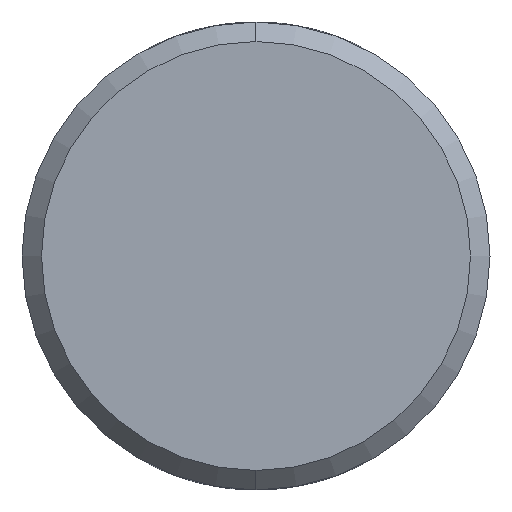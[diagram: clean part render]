
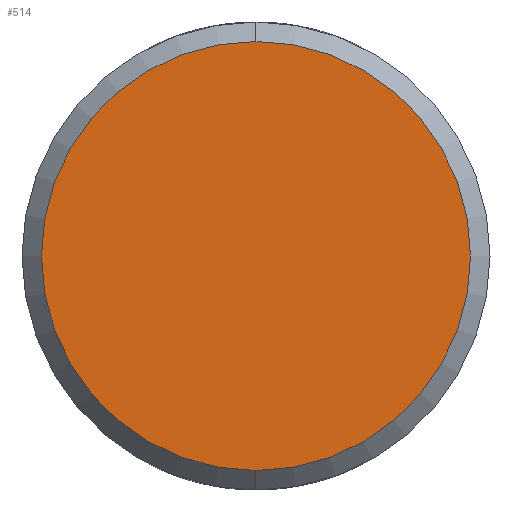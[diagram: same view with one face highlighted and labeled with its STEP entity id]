
A CAD part, left-side view. The second image highlights one B-rep face of the part: STEP entity #514.
In plain terms, the highlighted planar face has unit normal (-1, 0, 0).
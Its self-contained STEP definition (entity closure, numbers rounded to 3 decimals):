
#48 = CIRCLE ( 'NONE', #911, 5.5 ) ;
#71 = DIRECTION ( 'NONE',  ( 1., 0., 0. ) ) ;
#72 = DIRECTION ( 'NONE',  ( 0., 0., -1. ) ) ;
#152 = DIRECTION ( 'NONE',  ( -1., 0., 0. ) ) ;
#162 = VERTEX_POINT ( 'NONE', #488 ) ;
#219 = PLANE ( 'NONE',  #989 ) ;
#224 = CARTESIAN_POINT ( 'NONE',  ( -47., 0., 0. ) ) ;
#230 = DIRECTION ( 'NONE',  ( -1., 0., 0. ) ) ;
#300 = CARTESIAN_POINT ( 'NONE',  ( -47., 0., 0. ) ) ;
#315 = EDGE_LOOP ( 'NONE', ( #851, #742 ) ) ;
#348 = AXIS2_PLACEMENT_3D ( 'NONE', #300, #152, #441 ) ;
#371 = CARTESIAN_POINT ( 'NONE',  ( -47., 0., 5.5 ) ) ;
#441 = DIRECTION ( 'NONE',  ( 0., 0., -1. ) ) ;
#488 = CARTESIAN_POINT ( 'NONE',  ( -47., 0., -5.5 ) ) ;
#514 = ADVANCED_FACE ( 'NONE', ( #924 ), #219, .F. ) ;
#523 = CIRCLE ( 'NONE', #348, 5.5 ) ;
#742 = ORIENTED_EDGE ( 'NONE', *, *, #793, .T. ) ;
#745 = VERTEX_POINT ( 'NONE', #371 ) ;
#747 = CARTESIAN_POINT ( 'NONE',  ( -47., 0., 0. ) ) ;
#749 = DIRECTION ( 'NONE',  ( 0., 0., -1. ) ) ;
#758 = EDGE_CURVE ( 'NONE', #162, #745, #48, .T. ) ;
#793 = EDGE_CURVE ( 'NONE', #745, #162, #523, .T. ) ;
#851 = ORIENTED_EDGE ( 'NONE', *, *, #758, .T. ) ;
#911 = AXIS2_PLACEMENT_3D ( 'NONE', #224, #230, #72 ) ;
#924 = FACE_OUTER_BOUND ( 'NONE', #315, .T. ) ;
#989 = AXIS2_PLACEMENT_3D ( 'NONE', #747, #71, #749 ) ;
